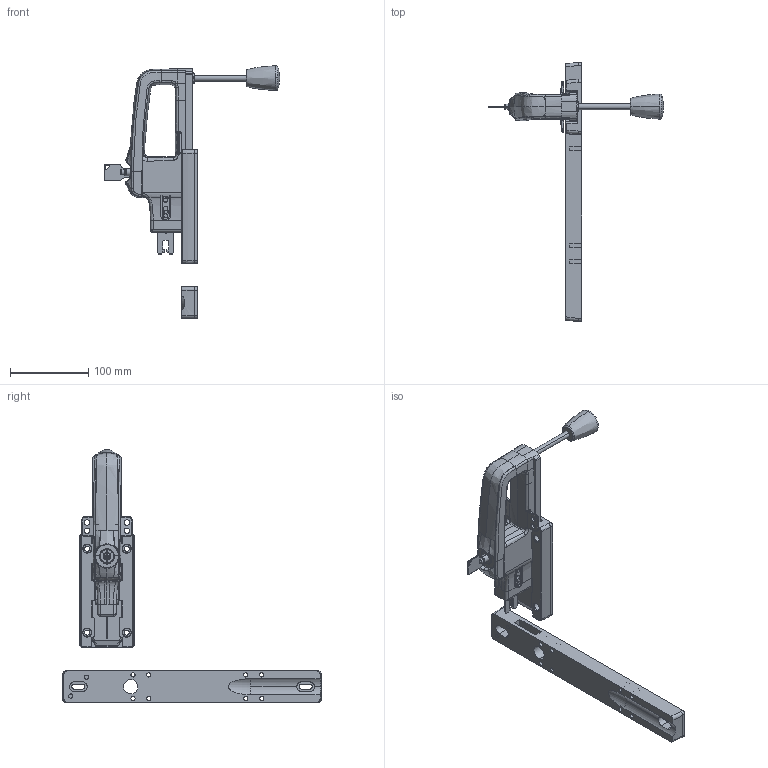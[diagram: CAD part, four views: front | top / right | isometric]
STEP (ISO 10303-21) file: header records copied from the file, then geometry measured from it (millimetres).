
FILE_DESCRIPTION (( 'STEP AP214' ), '1' );
FILE_NAME ('ZF_STEP_AN_YxTx9P.step', '2024-05-09T11:51:06', ( '' ), ( '' ), 'SwSTEP 2.0', 'SolidWorks 2023', '' );
FILE_SCHEMA (( 'AUTOMOTIVE_DESIGN' ));
Length unit declared in the file: millimetre
Products named in the file (19): 33850.5_33850.5; 33850.3_33850.3; 33850.1_Filetto; ZF_STEP_AN_YxTx9P; 33850_33850 per assieme; AN-Y_Maniglia FY con foro_3dweb_senza pulsante; Dado M8_M 8; 33804_3dweb_33804; 32100_32100; 33850.2_33850.2; 33850.7_33850.7; AN-Y_Maniglia FY con foro_3dweb_con leva e senza pulsante; 8497_8498; 33805_3dweb_33805; 33850.4_33850.4; 33850.6_33850.6; 32041_32041; 33812_33812; RondellaØ8
Assembly tree (20 placements, depth 3):
  ZF_STEP_AN_YxTx9P
    AN-Y_Maniglia FY con foro_3dweb_con leva e senza pulsante
      8497_8498
      33812_33812  x2
      32100_32100
      RondellaØ8
      Dado M8_M 8
      32041_32041
      AN-Y_Maniglia FY con foro_3dweb_senza pulsante
    33804_3dweb_33804
    33850_33850 per assieme
      33850.1_Filetto
      33850.6_33850.6
      33850.3_33850.3
      33850.7_33850.7
      33850.5_33850.5
      33850.4_33850.4
      33850.2_33850.2
    33850.2_33850.2
    33805_3dweb_33805
Bounding box: 223.86 x 330 x 322.49 mm (x, y, z)
Volume: 723169.6 mm3; surface area: 197603.3 mm2
Topology: 21 solids, 25 shells, 2460 faces, 6769 edges, 4376 vertices
Faces by surface type: plane 919, bspline 744, cylinder 634, cone 72, torus 65, sphere 26
Entity records: 155218 total; most frequent: CARTESIAN_POINT 101580, ORIENTED_EDGE 12782, DIRECTION 8733, EDGE_CURVE 6391, VERTEX_POINT 4142, AXIS2_PLACEMENT_3D 2988, LINE 2757, VECTOR 2757
